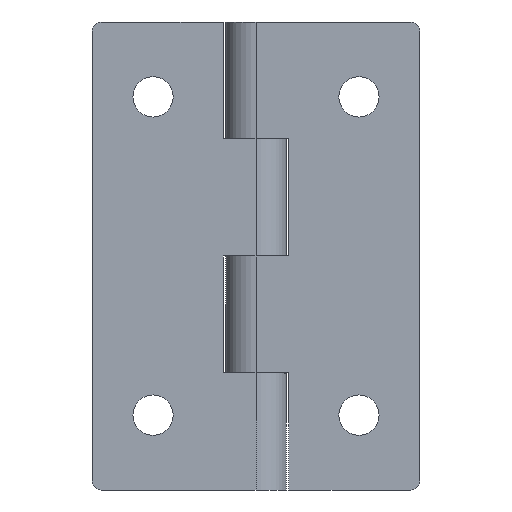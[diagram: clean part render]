
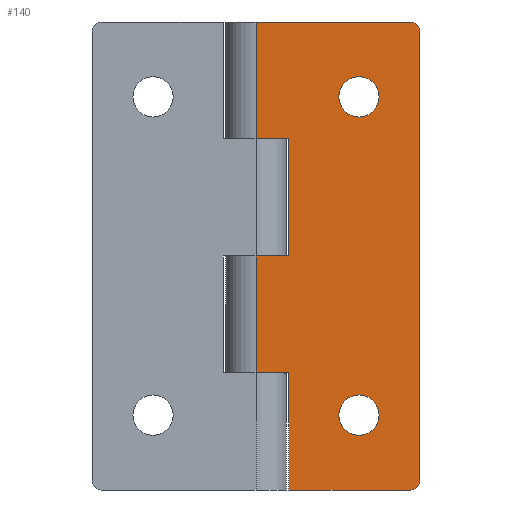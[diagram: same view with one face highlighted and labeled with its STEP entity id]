
A CAD part, front view. The second image highlights one B-rep face of the part: STEP entity #140.
In plain terms, the highlighted planar face has unit normal (0, -1, 0).
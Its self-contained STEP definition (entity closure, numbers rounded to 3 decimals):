
#7 = EDGE_LOOP ( 'NONE', ( #717, #679, #586, #397, #333, #308, #273, #42, #1191, #1222, #1257, #1043 ) ) ;
#8 = CARTESIAN_POINT ( 'NONE',  ( 0., -3.25, 50. ) ) ;
#11 = CARTESIAN_POINT ( 'NONE',  ( 11., -3.25, 42. ) ) ;
#42 = ORIENTED_EDGE ( 'NONE', *, *, #386, .F. ) ;
#91 = DIRECTION ( 'NONE',  ( 0., 0., -1. ) ) ;
#100 = CARTESIAN_POINT ( 'NONE',  ( 3.5, -3.25, 0. ) ) ;
#103 = VECTOR ( 'NONE', #643, 1000. ) ;
#140 = ADVANCED_FACE ( 'NONE', ( #188, #437, #540 ), #1220, .F. ) ;
#146 = EDGE_LOOP ( 'NONE', ( #1177, #1077 ) ) ;
#149 = VERTEX_POINT ( 'NONE', #996 ) ;
#184 = VECTOR ( 'NONE', #693, 1000. ) ;
#188 = FACE_BOUND ( 'NONE', #146, .T. ) ;
#193 = CARTESIAN_POINT ( 'NONE',  ( 0., -3.25, 50. ) ) ;
#199 = AXIS2_PLACEMENT_3D ( 'NONE', #389, #393, #413 ) ;
#212 = CARTESIAN_POINT ( 'NONE',  ( 0., -3.25, 25. ) ) ;
#214 = CARTESIAN_POINT ( 'NONE',  ( 11., -3.25, 39.85 ) ) ;
#216 = CIRCLE ( 'NONE', #199, 2.15 ) ;
#224 = VERTEX_POINT ( 'NONE', #747 ) ;
#234 = LINE ( 'NONE', #8, #496 ) ;
#240 = DIRECTION ( 'NONE',  ( 0., 0., -1. ) ) ;
#248 = CARTESIAN_POINT ( 'NONE',  ( 3.5, -3.25, 0. ) ) ;
#253 = DIRECTION ( 'NONE',  ( 0., 0., 1. ) ) ;
#268 = VERTEX_POINT ( 'NONE', #560 ) ;
#273 = ORIENTED_EDGE ( 'NONE', *, *, #1204, .F. ) ;
#288 = AXIS2_PLACEMENT_3D ( 'NONE', #527, #530, #566 ) ;
#292 = VERTEX_POINT ( 'NONE', #475 ) ;
#297 = EDGE_CURVE ( 'NONE', #1247, #149, #1089, .T. ) ;
#304 = VERTEX_POINT ( 'NONE', #791 ) ;
#308 = ORIENTED_EDGE ( 'NONE', *, *, #1252, .T. ) ;
#311 = EDGE_CURVE ( 'NONE', #917, #224, #841, .T. ) ;
#313 = LINE ( 'NONE', #587, #1364 ) ;
#320 = CARTESIAN_POINT ( 'NONE',  ( 3.5, -3.25, 0. ) ) ;
#327 = LINE ( 'NONE', #248, #1143 ) ;
#333 = ORIENTED_EDGE ( 'NONE', *, *, #692, .F. ) ;
#386 = EDGE_CURVE ( 'NONE', #722, #808, #327, .T. ) ;
#389 = CARTESIAN_POINT ( 'NONE',  ( 11., -3.25, 8. ) ) ;
#393 = DIRECTION ( 'NONE',  ( 0., -1., 0. ) ) ;
#397 = ORIENTED_EDGE ( 'NONE', *, *, #576, .T. ) ;
#413 = DIRECTION ( 'NONE',  ( 0., 0., -1. ) ) ;
#424 = DIRECTION ( 'NONE',  ( 0., 0., -1. ) ) ;
#426 = VERTEX_POINT ( 'NONE', #100 ) ;
#435 = VERTEX_POINT ( 'NONE', #212 ) ;
#437 = FACE_BOUND ( 'NONE', #815, .T. ) ;
#455 = CARTESIAN_POINT ( 'NONE',  ( 3.5, -3.25, 25. ) ) ;
#475 = CARTESIAN_POINT ( 'NONE',  ( 3.5, -3.25, 12.5 ) ) ;
#491 = CARTESIAN_POINT ( 'NONE',  ( 16.5, -3.25, 1. ) ) ;
#496 = VECTOR ( 'NONE', #240, 1000. ) ;
#501 = DIRECTION ( 'NONE',  ( 0., -1., 0. ) ) ;
#516 = CIRCLE ( 'NONE', #1133, 1. ) ;
#525 = VECTOR ( 'NONE', #424, 1000. ) ;
#527 = CARTESIAN_POINT ( 'NONE',  ( 16.5, -3.25, 49. ) ) ;
#528 = EDGE_CURVE ( 'NONE', #426, #292, #1035, .T. ) ;
#529 = CARTESIAN_POINT ( 'NONE',  ( 0., -3.25, 12.5 ) ) ;
#530 = DIRECTION ( 'NONE',  ( 0., -1., 0. ) ) ;
#540 = FACE_OUTER_BOUND ( 'NONE', #7, .T. ) ;
#550 = CIRCLE ( 'NONE', #711, 2.15 ) ;
#554 = DIRECTION ( 'NONE',  ( -1., 0., 0. ) ) ;
#560 = CARTESIAN_POINT ( 'NONE',  ( 16.5, -3.25, 50. ) ) ;
#563 = CARTESIAN_POINT ( 'NONE',  ( 11., -3.25, 42. ) ) ;
#566 = DIRECTION ( 'NONE',  ( 0., 0., 1. ) ) ;
#567 = CARTESIAN_POINT ( 'NONE',  ( 11., -3.25, 5.85 ) ) ;
#575 = DIRECTION ( 'NONE',  ( 0., -1., 0. ) ) ;
#576 = EDGE_CURVE ( 'NONE', #1247, #268, #1000, .T. ) ;
#581 = DIRECTION ( 'NONE',  ( 0., 0., -1. ) ) ;
#586 = ORIENTED_EDGE ( 'NONE', *, *, #297, .F. ) ;
#587 = CARTESIAN_POINT ( 'NONE',  ( 0., -3.25, 25. ) ) ;
#591 = VERTEX_POINT ( 'NONE', #567 ) ;
#608 = CARTESIAN_POINT ( 'NONE',  ( 11., -3.25, 8. ) ) ;
#617 = DIRECTION ( 'NONE',  ( 0., -1., 0. ) ) ;
#622 = DIRECTION ( 'NONE',  ( 0., 0., -1. ) ) ;
#637 = AXIS2_PLACEMENT_3D ( 'NONE', #563, #575, #581 ) ;
#643 = DIRECTION ( 'NONE',  ( 1., 0., 0. ) ) ;
#679 = ORIENTED_EDGE ( 'NONE', *, *, #1381, .T. ) ;
#692 = EDGE_CURVE ( 'NONE', #865, #268, #871, .T. ) ;
#693 = DIRECTION ( 'NONE',  ( 0., 0., 1. ) ) ;
#700 = VERTEX_POINT ( 'NONE', #529 ) ;
#711 = AXIS2_PLACEMENT_3D ( 'NONE', #608, #617, #622 ) ;
#717 = ORIENTED_EDGE ( 'NONE', *, *, #1080, .T. ) ;
#719 = EDGE_CURVE ( 'NONE', #224, #917, #839, .T. ) ;
#722 = VERTEX_POINT ( 'NONE', #455 ) ;
#734 = EDGE_CURVE ( 'NONE', #591, #1061, #550, .T. ) ;
#741 = EDGE_CURVE ( 'NONE', #722, #435, #313, .T. ) ;
#742 = CARTESIAN_POINT ( 'NONE',  ( 3.5, -3.25, 37.5 ) ) ;
#747 = CARTESIAN_POINT ( 'NONE',  ( 11., -3.25, 44.15 ) ) ;
#753 = CARTESIAN_POINT ( 'NONE',  ( 11., -3.25, 10.15 ) ) ;
#763 = VECTOR ( 'NONE', #1166, 1000. ) ;
#770 = CARTESIAN_POINT ( 'NONE',  ( 0., -3.25, 0. ) ) ;
#783 = DIRECTION ( 'NONE',  ( 0., 0., 1. ) ) ;
#791 = CARTESIAN_POINT ( 'NONE',  ( 0., -3.25, 37.5 ) ) ;
#808 = VERTEX_POINT ( 'NONE', #742 ) ;
#815 = EDGE_LOOP ( 'NONE', ( #964, #868 ) ) ;
#834 = VECTOR ( 'NONE', #915, 1000. ) ;
#839 = CIRCLE ( 'NONE', #637, 2.15 ) ;
#841 = CIRCLE ( 'NONE', #1258, 2.15 ) ;
#846 = CARTESIAN_POINT ( 'NONE',  ( 0., -3.25, 12.5 ) ) ;
#856 = VERTEX_POINT ( 'NONE', #1079 ) ;
#865 = VERTEX_POINT ( 'NONE', #881 ) ;
#868 = ORIENTED_EDGE ( 'NONE', *, *, #1022, .F. ) ;
#871 = LINE ( 'NONE', #193, #1123 ) ;
#881 = CARTESIAN_POINT ( 'NONE',  ( 0., -3.25, 50. ) ) ;
#915 = DIRECTION ( 'NONE',  ( -1., 0., 0. ) ) ;
#917 = VERTEX_POINT ( 'NONE', #214 ) ;
#964 = ORIENTED_EDGE ( 'NONE', *, *, #734, .F. ) ;
#971 = EDGE_CURVE ( 'NONE', #435, #700, #234, .T. ) ;
#979 = VECTOR ( 'NONE', #1309, 1000. ) ;
#996 = CARTESIAN_POINT ( 'NONE',  ( 17.5, -3.25, 1. ) ) ;
#1000 = CIRCLE ( 'NONE', #288, 1. ) ;
#1022 = EDGE_CURVE ( 'NONE', #1061, #591, #216, .T. ) ;
#1035 = LINE ( 'NONE', #320, #184 ) ;
#1043 = ORIENTED_EDGE ( 'NONE', *, *, #528, .F. ) ;
#1061 = VERTEX_POINT ( 'NONE', #753 ) ;
#1077 = ORIENTED_EDGE ( 'NONE', *, *, #719, .F. ) ;
#1079 = CARTESIAN_POINT ( 'NONE',  ( 16.5, -3.25, 0. ) ) ;
#1080 = EDGE_CURVE ( 'NONE', #426, #856, #1245, .T. ) ;
#1089 = LINE ( 'NONE', #1341, #525 ) ;
#1094 = EDGE_CURVE ( 'NONE', #292, #700, #1117, .T. ) ;
#1100 = CARTESIAN_POINT ( 'NONE',  ( 0., -3.25, 37.5 ) ) ;
#1117 = LINE ( 'NONE', #846, #834 ) ;
#1123 = VECTOR ( 'NONE', #1235, 1000. ) ;
#1133 = AXIS2_PLACEMENT_3D ( 'NONE', #491, #501, #783 ) ;
#1143 = VECTOR ( 'NONE', #253, 1000. ) ;
#1166 = DIRECTION ( 'NONE',  ( -1., 0., 0. ) ) ;
#1177 = ORIENTED_EDGE ( 'NONE', *, *, #311, .F. ) ;
#1191 = ORIENTED_EDGE ( 'NONE', *, *, #741, .T. ) ;
#1204 = EDGE_CURVE ( 'NONE', #808, #304, #1321, .T. ) ;
#1220 = PLANE ( 'NONE',  #1280 ) ;
#1222 = ORIENTED_EDGE ( 'NONE', *, *, #971, .T. ) ;
#1235 = DIRECTION ( 'NONE',  ( 1., 0., 0. ) ) ;
#1244 = CARTESIAN_POINT ( 'NONE',  ( 17.5, -3.25, 49. ) ) ;
#1245 = LINE ( 'NONE', #770, #103 ) ;
#1246 = DIRECTION ( 'NONE',  ( 0., 0., 1. ) ) ;
#1247 = VERTEX_POINT ( 'NONE', #1244 ) ;
#1250 = DIRECTION ( 'NONE',  ( 0., 1., 0. ) ) ;
#1252 = EDGE_CURVE ( 'NONE', #865, #304, #1260, .T. ) ;
#1257 = ORIENTED_EDGE ( 'NONE', *, *, #1094, .F. ) ;
#1258 = AXIS2_PLACEMENT_3D ( 'NONE', #11, #1285, #91 ) ;
#1260 = LINE ( 'NONE', #1275, #979 ) ;
#1267 = CARTESIAN_POINT ( 'NONE',  ( 0., -3.25, 50. ) ) ;
#1275 = CARTESIAN_POINT ( 'NONE',  ( 0., -3.25, 50. ) ) ;
#1280 = AXIS2_PLACEMENT_3D ( 'NONE', #1267, #1250, #1246 ) ;
#1285 = DIRECTION ( 'NONE',  ( 0., -1., 0. ) ) ;
#1309 = DIRECTION ( 'NONE',  ( 0., 0., -1. ) ) ;
#1321 = LINE ( 'NONE', #1100, #763 ) ;
#1341 = CARTESIAN_POINT ( 'NONE',  ( 17.5, -3.25, 50. ) ) ;
#1364 = VECTOR ( 'NONE', #554, 1000. ) ;
#1381 = EDGE_CURVE ( 'NONE', #856, #149, #516, .T. ) ;
